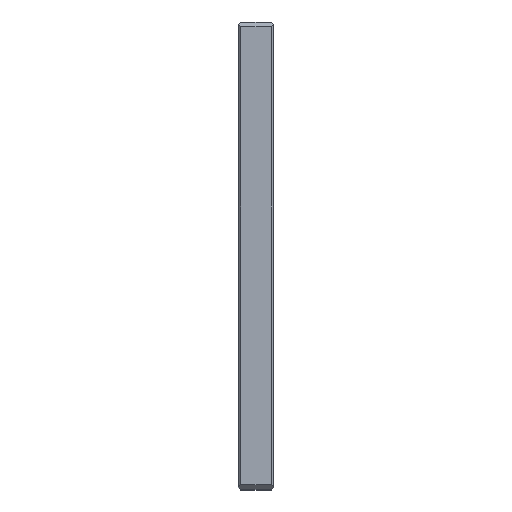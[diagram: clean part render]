
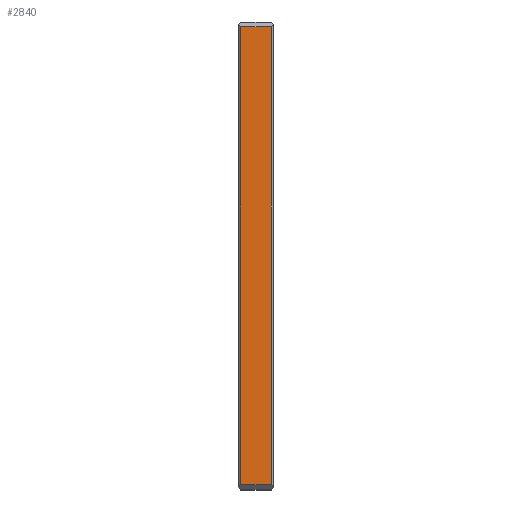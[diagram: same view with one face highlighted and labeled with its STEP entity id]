
A CAD part, top view. The second image highlights one B-rep face of the part: STEP entity #2840.
In plain terms, the highlighted planar face has unit normal (0, 0, 1).
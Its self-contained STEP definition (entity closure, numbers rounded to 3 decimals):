
#802=FACE_OUTER_BOUND($,#1145,.T.);
#1145=EDGE_LOOP($,(#2395,#2396,#2397,#2398));
#1544=LINE($,#4517,#1584);
#1552=LINE($,#4662,#1592);
#1557=LINE($,#4672,#1597);
#1575=LINE($,#4836,#1615);
#1584=VECTOR($,#3526,13.);
#1592=VECTOR($,#3668,196.);
#1597=VECTOR($,#3675,13.);
#1615=VECTOR($,#3839,196.);
#1623=VERTEX_POINT($,#4514);
#1624=VERTEX_POINT($,#4516);
#1694=VERTEX_POINT($,#4660);
#1698=VERTEX_POINT($,#4670);
#1908=EDGE_CURVE($,#1623,#1624,#1544,.T.);
#1981=EDGE_CURVE($,#1694,#1623,#1552,.T.);
#1986=EDGE_CURVE($,#1698,#1694,#1557,.T.);
#2069=EDGE_CURVE($,#1624,#1698,#1575,.T.);
#2395=ORIENTED_EDGE($,*,*,#1981,.F.);
#2396=ORIENTED_EDGE($,*,*,#1986,.F.);
#2397=ORIENTED_EDGE($,*,*,#2069,.F.);
#2398=ORIENTED_EDGE($,*,*,#1908,.F.);
#2817=PLANE($,#3186);
#2840=ADVANCED_FACE($,(#802),#2817,.T.);
#3186=AXIS2_PLACEMENT_3D($,#4841,#3844,#3845);
#3526=DIRECTION($,(1.,0.,0.));
#3668=DIRECTION($,(0.,1.,0.));
#3675=DIRECTION($,(-1.,0.,0.));
#3839=DIRECTION($,(0.,-1.,0.));
#3844=DIRECTION('center_axis',(0.,0.,1.));
#3845=DIRECTION('ref_axis',(0.,-1.,0.));
#4514=CARTESIAN_POINT('',(1.,198.,200.));
#4516=CARTESIAN_POINT('',(14.,198.,200.));
#4517=CARTESIAN_POINT($,(0.,198.,200.));
#4660=CARTESIAN_POINT('',(1.,2.,200.));
#4662=CARTESIAN_POINT($,(1.,150.,200.));
#4670=CARTESIAN_POINT('',(14.,2.,200.));
#4672=CARTESIAN_POINT($,(0.,2.,200.));
#4836=CARTESIAN_POINT($,(14.,150.,200.));
#4841=CARTESIAN_POINT('Origin',(0.,200.,200.));
